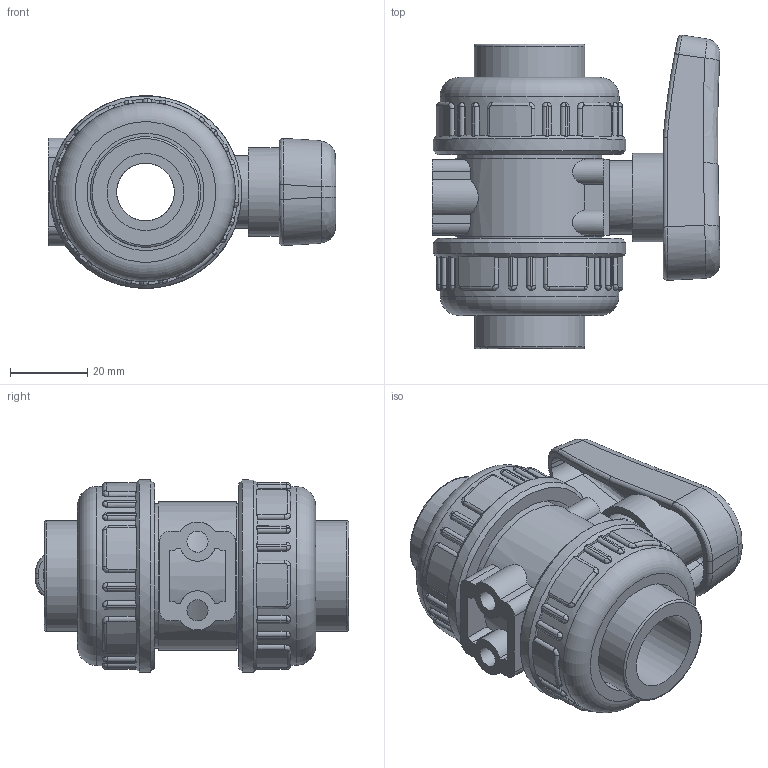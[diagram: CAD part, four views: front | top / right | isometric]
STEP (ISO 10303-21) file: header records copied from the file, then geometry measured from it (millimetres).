
FILE_DESCRIPTION(/* description */ (''),/* implementation_level */ '2;1');
FILE_NAME(/* name */ 'C:\Users\POLYPIPE\Desktop\DATASET INVENTOR\LIBRERIA EFFAST\3D_VALVOLE\3D_VALVOLE A SFERA\3D_BK1\3D_BHPBK1H\3D_BHPBK1H0200.stp',/* time_stamp */ '2018-01-25T16:09:15+01:00',/* author */ ('POLYPIPE'),/* organization */ (''),/* preprocessor_version */ 'ST-DEVELOPER v16.1',/* originating_system */ 'Autodesk Inventor 2016',/* authorisation */ '');
FILE_SCHEMA (('CONFIG_CONTROL_DESIGN'));
Length unit declared in the file: centimetre
Products named in the file (1): 3D_BHPBK1H0200
Bounding box: 74.72 x 81.36 x 50 mm (x, y, z)
Volume: 98163.7 mm3; surface area: 42037 mm2
Topology: 3 solids, 3 shells, 566 faces, 1466 edges, 927 vertices
Faces by surface type: plane 192, cylinder 192, bspline 162, torus 16, cone 4
Full cylindrical faces by diameter (mm): 2.5 x4, 5.5 x2, 12 x1, 15 x3, 19 x1, 20 x2, 23 x1, 28.7 x2, 30.4 x2, 36.5 x2, 37.5 x2, 38.6 x1, 40.4 x2, 46.5 x2, 50 x2
Entity records: 62056 total; most frequent: CARTESIAN_POINT 48631, ORIENTED_EDGE 2824, DIRECTION 2377, EDGE_CURVE 1412, VERTEX_POINT 911, AXIS2_PLACEMENT_3D 900, EDGE_LOOP 633, LINE 577
